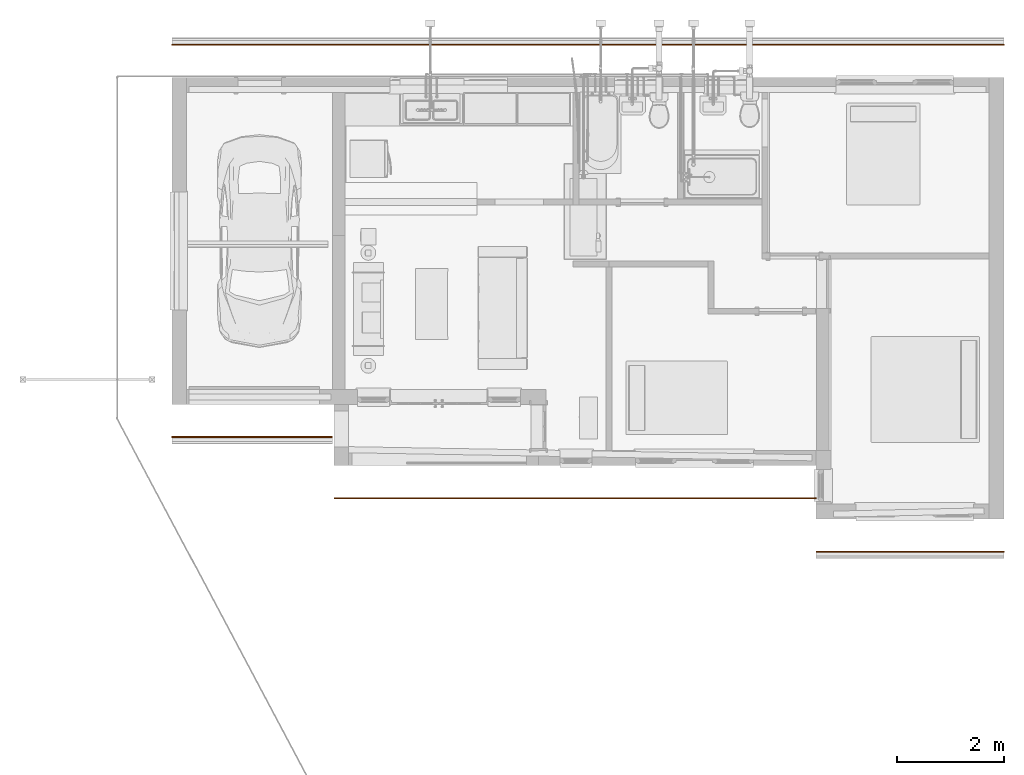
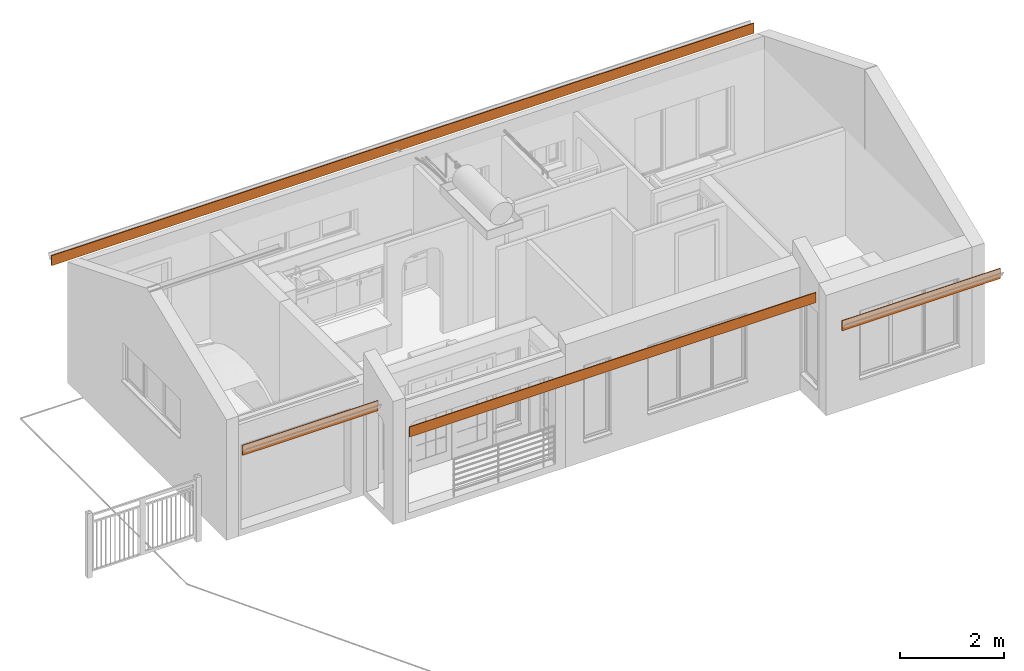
# One storey, part 40 of 41: 4 proxies.
"""IFC2X3 building model written with IfcOpenShell, lengths in millimetres."""

import ifcopenshell
import ifcopenshell.guid

model = None  # the IFC model being written
_history = None  # IfcOwnerHistory: only IFC2X3 demands one
_inside = {}  # id of a spatial element -> (the spatial element, [elements in it])
_under = {}  # id of a project, library or spatial element -> (it, [spatial elements below it])
_declared = {}  # id of a project -> (the project, [libraries it declares])
_typed = {}  # id of a type object -> (the type object, [elements of that type])
_made_of = {}  # id of a material, layer set ... -> (it, [elements and type objects made of it])


def new_model(schema):
    """Start an empty IFC model of exactly this schema.

    Asked for "IFC4X3", IfcOpenShell would pick the latest addendum, in which some entities
    have other attributes; the version numbers below select the first issue.
    IFC2X3 requires an IfcOwnerHistory on every rooted entity: one is made here for all.
    """
    global model, _history
    if schema == "IFC4X3":
        model = ifcopenshell.file(schema_version=(4, 3, 0, 0))
    else:
        model = ifcopenshell.file(schema=schema)
    _inside.clear()
    _under.clear()
    _declared.clear()
    _typed.clear()
    _made_of.clear()
    _history = None
    if model.schema == "IFC2X3":
        org = make("IfcOrganization", Name="unknown")
        user = make(
            "IfcPersonAndOrganization",
            ThePerson=make("IfcPerson", FamilyName="unknown"),
            TheOrganization=org,
        )
        app = make(
            "IfcApplication",
            ApplicationDeveloper=org,
            Version="unknown",
            ApplicationFullName="unknown",
            ApplicationIdentifier="unknown",
        )
        _history = make(
            "IfcOwnerHistory",
            OwningUser=user,
            OwningApplication=app,
            ChangeAction="ADDED",
            CreationDate=0,
        )
    return model


def make(cls, **values):
    """One entity of the class cls with the attributes given. An attribute that is None is left unset."""
    return model.create_entity(
        cls, **{name: value for name, value in values.items() if value is not None}
    )


def entity(cls, *values):
    """Any entity or typed value of the class cls, its attributes in the order of the schema. None: left unset."""
    e = model.create_entity(cls)
    for i, value in enumerate(values):
        if value is not None:
            e[i] = value
    return e


def rooted(cls, **values):
    """An entity with a GlobalId (a new one), such as an element, a storey or a relation."""
    return make(cls, GlobalId=ifcopenshell.guid.new(), OwnerHistory=_history, **values)


def si_unit(unit_type, name, prefix=None):
    """IfcSIUnit, for example si_unit("LENGTHUNIT", "METRE", prefix="MILLI")."""
    return make("IfcSIUnit", UnitType=unit_type, Prefix=prefix, Name=name)


def converted_unit(unit_type, name, factor, base, dimensions=None, offset=None):
    """IfcConversionBasedUnit, such as the inch: factor (a typed value) times the base unit."""
    return make(
        "IfcConversionBasedUnit"
        if offset is None
        else "IfcConversionBasedUnitWithOffset",
        ConversionOffset=offset,
        Dimensions=None
        if dimensions is None
        else entity("IfcDimensionalExponents", *dimensions),
        UnitType=unit_type,
        Name=name,
        ConversionFactor=make(
            "IfcMeasureWithUnit", ValueComponent=factor, UnitComponent=base
        ),
    )


def derived_unit(unit_type, elements):
    """IfcDerivedUnit: a product of units, each with its exponent."""
    return make(
        "IfcDerivedUnit",
        Elements=[
            make("IfcDerivedUnitElement", Unit=unit, Exponent=power)
            for unit, power in elements
        ],
        UnitType=unit_type,
    )


def assignment(units):
    """IfcUnitAssignment: the units of a project."""
    return None if units is None else make("IfcUnitAssignment", Units=units)


def point(xyz):
    """IfcCartesianPoint."""
    return None if xyz is None else make("IfcCartesianPoint", Coordinates=xyz)


def direction(xyz):
    """IfcDirection."""
    return None if xyz is None else make("IfcDirection", DirectionRatios=xyz)


def frame(location, z_axis=None, x_axis=None):
    """IfcAxis2Placement3D, a coordinate frame: its origin and axes. An axis left out is left unset."""
    return make(
        "IfcAxis2Placement3D",
        Location=point(location),
        Axis=direction(z_axis),
        RefDirection=direction(x_axis),
    )


def frame_2d(location, x_axis=None):
    """IfcAxis2Placement2D, a coordinate frame in the plane: its origin and x axis."""
    return make(
        "IfcAxis2Placement2D", Location=point(location), RefDirection=direction(x_axis)
    )


def origin():
    """The frame at (0, 0, 0) with its axes left unset."""
    return frame((0.0, 0.0, 0.0))


def origin_2d_with_axis():
    """The frame at (0, 0) in the plane with the x axis (1, 0) written out."""
    return frame_2d((0.0, 0.0), x_axis=(1.0, 0.0))


def place(relative_to, where):
    """IfcLocalPlacement: puts the frame where relative to a parent placement (None: the world)."""
    return make(
        "IfcLocalPlacement", PlacementRelTo=relative_to, RelativePlacement=where
    )


def context(
    kind, dimensions, precision=None, world=None, true_north=None, identifier=None
):
    """IfcGeometricRepresentationContext, for example the 3D "Model" context."""
    return make(
        "IfcGeometricRepresentationContext",
        ContextIdentifier=identifier,
        ContextType=kind,
        CoordinateSpaceDimension=dimensions,
        Precision=precision,
        WorldCoordinateSystem=world,
        TrueNorth=true_north,
    )


def subcontext(parent, identifier, kind, view, scale=None):
    """IfcGeometricRepresentationSubContext, for example "Body" below "Model"."""
    return make(
        "IfcGeometricRepresentationSubContext",
        ContextIdentifier=identifier,
        ContextType=kind,
        ParentContext=parent,
        TargetScale=scale,
        TargetView=view,
    )


def project(units=None, contexts=None):
    """IfcProject with its units and contexts."""
    return rooted(
        "IfcProject",
        Name="project",
        RepresentationContexts=contexts,
        UnitsInContext=assignment(units),
    )


def spatial(cls, under=None, at=None, **own):
    """A site, building, storey or space (cls), placed at a placement, below another one or the project."""
    s = rooted(cls, ObjectPlacement=at, **own)
    if under is not None:
        _under.setdefault(under.id(), (under, []))[1].append(s)
    return s


def profile(cls, at=None, kind="AREA", **sizes):
    """A parametric profile (cls). Its sizes go by their IFC names, for example OverallWidth=200.0."""
    return make(cls, ProfileType=kind, Position=at, **sizes)


def rectangle(**sizes):
    """IfcRectangleProfileDef."""
    return profile("IfcRectangleProfileDef", **sizes)


def extrude(swept, where, along, depth):
    """IfcExtrudedAreaSolid: the profile swept, set in the frame where, extruded along a direction by depth."""
    return make(
        "IfcExtrudedAreaSolid",
        SweptArea=swept,
        Position=where,
        ExtrudedDirection=direction(along),
        Depth=depth,
    )


def shape(context_of_items, identifier, shape_type, items):
    """IfcShapeRepresentation: the items that make up one representation, for example the "Body"."""
    return make(
        "IfcShapeRepresentation",
        ContextOfItems=context_of_items,
        RepresentationIdentifier=identifier,
        RepresentationType=shape_type,
        Items=items,
    )


def made_of(thing, what):
    """Note that an element or type object is made of a material, layer set ...; save() writes the relation."""
    if what is not None:
        _made_of.setdefault(what.id(), (what, []))[1].append(thing)
    return thing


def element(
    cls,
    number,
    at=None,
    inside=None,
    cuts=None,
    type_object=None,
    material=None,
    context=None,
    identifier="Body",
    shape_type=None,
    held_by="IfcProductDefinitionShape",
    body=None,
    shapes=None,
    **own,
):
    """One element of the class cls, such as IfcWall. Its Tag is "e" and its number.

    at: its placement. inside: the storey or other place that contains it. cuts: it is an
    opening in that element (IfcRelVoidsElement). A single representation is given by context,
    identifier, shape_type and body (its items); several are given by shapes. held_by: the class
    of the entity that holds the representations. save() writes the other relations.
    """
    e = rooted(cls, Tag="e%d" % number, ObjectPlacement=at, **own)
    if body is not None:
        shapes = [shape(context, identifier, shape_type, body)]
    if shapes is not None:
        e.Representation = make(held_by, Representations=shapes)
    if inside is not None:
        _inside.setdefault(inside.id(), (inside, []))[1].append(e)
    if cuts is not None:
        rooted(
            "IfcRelVoidsElement", RelatingBuildingElement=cuts, RelatedOpeningElement=e
        )
    if type_object is not None:
        _typed.setdefault(type_object.id(), (type_object, []))[1].append(e)
    return made_of(e, material)


def aggregate(whole, parts):
    """IfcRelAggregates: a whole, such as a stair, and the parts it consists of."""
    return rooted("IfcRelAggregates", RelatingObject=whole, RelatedObjects=parts)


def save(model, path):
    """Write the relations noted so far, then the file.

    IfcRelAggregates (storeys below a building ...), IfcRelContainedInSpatialStructure (elements
    in a storey), IfcRelDefinesByType, IfcRelAssociatesMaterial and IfcRelDeclares: one each for
    every whole, place, type object, material and project.
    """
    for whole, parts in _under.values():
        aggregate(whole, parts)
    for where, things in _inside.values():
        rooted(
            "IfcRelContainedInSpatialStructure",
            RelatedElements=things,
            RelatingStructure=where,
        )
    for kind, things in _typed.values():
        rooted("IfcRelDefinesByType", RelatedObjects=things, RelatingType=kind)
    for what, things in _made_of.values():
        rooted("IfcRelAssociatesMaterial", RelatedObjects=things, RelatingMaterial=what)
    for by, libraries in _declared.values():
        rooted("IfcRelDeclares", RelatingContext=by, RelatedDefinitions=libraries)
    model.write(path)


model = new_model("IFC2X3")

# Units and contexts
model_context = context("Model", 3, precision=0.01, world=origin(), true_north=direction((6.12303176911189e-17, 1.0)))
body_context = subcontext(model_context, "Body", "Model", "MODEL_VIEW")
ifc_project = project(units=[si_unit("LENGTHUNIT", "METRE", prefix="MILLI"), si_unit("AREAUNIT", "SQUARE_METRE"), si_unit("VOLUMEUNIT", "CUBIC_METRE"), converted_unit("PLANEANGLEUNIT", "DEGREE", entity("IfcRatioMeasure", 0.0174532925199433), si_unit("PLANEANGLEUNIT", "RADIAN"), dimensions=[0, 0, 0, 0, 0, 0, 0]), si_unit("MASSUNIT", "GRAM", prefix="KILO"), derived_unit("MASSDENSITYUNIT", [(si_unit("MASSUNIT", "GRAM", prefix="KILO"), 1), (si_unit("LENGTHUNIT", "METRE"), -3)]), si_unit("TIMEUNIT", "SECOND"), si_unit("FREQUENCYUNIT", "HERTZ"), si_unit("THERMODYNAMICTEMPERATUREUNIT", "DEGREE_CELSIUS"), derived_unit("THERMALTRANSMITTANCEUNIT", [(si_unit("MASSUNIT", "GRAM", prefix="KILO"), 1), (si_unit("THERMODYNAMICTEMPERATUREUNIT", "KELVIN"), -1), (si_unit("TIMEUNIT", "SECOND"), -3)]), derived_unit("VOLUMETRICFLOWRATEUNIT", [(si_unit("LENGTHUNIT", "METRE"), 3), (si_unit("TIMEUNIT", "SECOND"), -1)]), si_unit("ELECTRICCURRENTUNIT", "AMPERE"), si_unit("ELECTRICVOLTAGEUNIT", "VOLT"), si_unit("POWERUNIT", "WATT"), si_unit("FORCEUNIT", "NEWTON", prefix="KILO"), si_unit("ILLUMINANCEUNIT", "LUX"), si_unit("LUMINOUSFLUXUNIT", "LUMEN"), si_unit("LUMINOUSINTENSITYUNIT", "CANDELA"), derived_unit("USERDEFINED", [(si_unit("MASSUNIT", "GRAM", prefix="KILO"), -1), (si_unit("LENGTHUNIT", "METRE"), -2), (si_unit("TIMEUNIT", "SECOND"), 3), (si_unit("LUMINOUSFLUXUNIT", "LUMEN"), 1)]), derived_unit("LINEARVELOCITYUNIT", [(si_unit("LENGTHUNIT", "METRE"), 1), (si_unit("TIMEUNIT", "SECOND"), -1)]), si_unit("PRESSUREUNIT", "PASCAL"), derived_unit("USERDEFINED", [(si_unit("LENGTHUNIT", "METRE"), -2), (si_unit("MASSUNIT", "GRAM", prefix="KILO"), 1), (si_unit("TIMEUNIT", "SECOND"), -2)])], contexts=[model_context])

# Site, building, storey
site_placement = place(None, origin())
site = spatial("IfcSite", under=ifc_project, at=site_placement, Name="Surface", CompositionType="ELEMENT")
building_placement = place(site_placement, origin())
building = spatial("IfcBuilding", under=site, at=building_placement, CompositionType="ELEMENT")
storey_placement = place(building_placement, frame((0.0, 0.0, 300.0)))
storey = spatial("IfcBuildingStorey", under=building, at=storey_placement, Name="F.F.L", CompositionType="ELEMENT", Elevation=300.0)

# Proxies
proxy_1_placement = place(storey_placement, origin())
element("IfcBuildingElementProxy", 1, at=proxy_1_placement, inside=storey, Name="Fascia:Fascia", ObjectType="Fascia:Fascia", context=body_context, shape_type="SweptSolid", body=[
    extrude(rectangle(XDim=3000.0, YDim=19.0, at=frame_2d((5.6843418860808e-13, -2.70894418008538e-13), x_axis=(1.0, 0.0))), frame((-10586.8751700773, 4110.59087597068, 2215.68399297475)), (0.0, 0.0, 1.0), 235.0),
])
proxy_2_placement = place(storey_placement, origin())
element("IfcBuildingElementProxy", 2, at=proxy_2_placement, inside=storey, Name="Fascia:Fascia", ObjectType="Fascia:Fascia", context=body_context, shape_type="SweptSolid", body=[
    extrude(rectangle(XDim=15550.0, YDim=19.0, at=origin_2d_with_axis()), frame((-4311.8751700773, 11437.587728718, 2215.68399297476), z_axis=(0.0, 0.0, 1.0), x_axis=(-1.0, 0.0, 0.0)), (0.0, 0.0, 1.0), 235.0),
])
proxy_3_placement = place(storey_placement, origin())
element("IfcBuildingElementProxy", 3, at=proxy_3_placement, inside=storey, Name="Fascia:Fascia", ObjectType="Fascia:Fascia", context=body_context, shape_type="SweptSolid", body=[
    extrude(rectangle(XDim=9009.99999999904, YDim=19.0, at=origin_2d_with_axis()), frame((-4551.87517007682, 2970.09087597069, 2275.68399297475)), (0.0, 0.0, 1.0), 235.0),
])
proxy_4_placement = place(storey_placement, origin())
element("IfcBuildingElementProxy", 4, at=proxy_4_placement, inside=storey, Name="Fascia:Fascia", ObjectType="Fascia:Fascia", context=body_context, shape_type="SweptSolid", body=[
    extrude(rectangle(XDim=3510.0, YDim=19.0, at=frame_2d((1.13686837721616e-13, 0.0), x_axis=(1.0, 0.0))), frame((1708.1248299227, 1970.59087597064, 2215.68399297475)), (0.0, 0.0, 1.0), 235.0),
])

save(model, "model.ifc")
